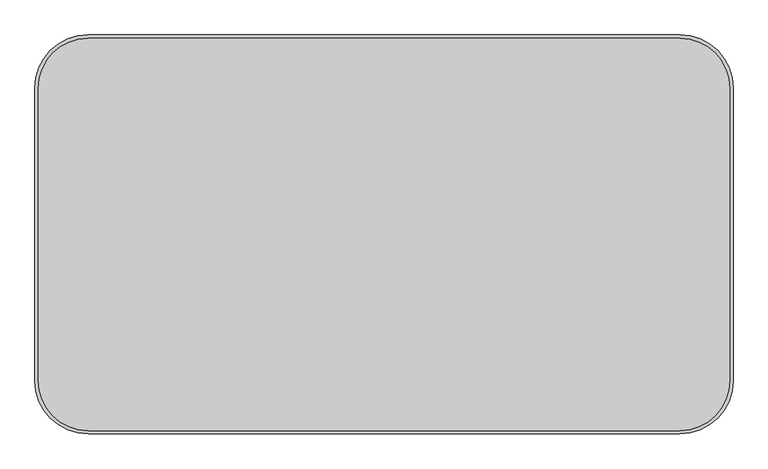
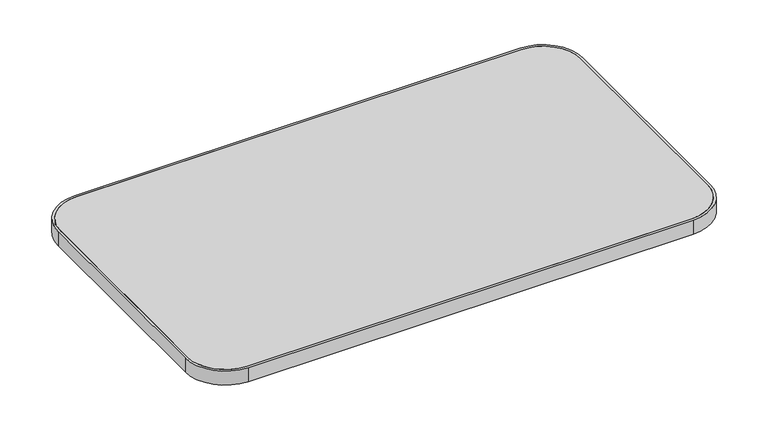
"""IFC4 building model written with IfcOpenShell, lengths in millimetres: furniture geometry, Steelcase - Answer Solution - Universal Table - Straight - 3mm Edge : 24D x 42W."""

from ifc_helpers import new_model, si_unit, point, frame, frame_2d, origin, place, context, project, spatial, polyline, circle_curve, trimmed, segment, composite_curve, outline, extrude, source, transform, mapped, element, save


def furniture_85e610aa(model_context):
    return source(origin(), model_context, "Body", "SweptSolid", [
        extrude(outline(composite_curve([segment(polyline([(5.08, -528.32), (5.08, -81.28)]), True, "CONTINUOUS"), segment(trimmed(circle_curve(frame_2d((81.28, -81.28)), 76.2), [point((5.08, -81.28))], [point((81.28, -5.08))], False, "CARTESIAN"), True, "CONTINUOUS"), segment(polyline([(81.28, -5.08), (985.52, -5.08)]), True, "CONTINUOUS"), segment(trimmed(circle_curve(frame_2d((985.52, -81.28)), 76.2), [point((985.52, -5.08))], [point((1061.72, -81.28))], False, "CARTESIAN"), True, "CONTINUOUS"), segment(polyline([(1061.72, -81.28), (1061.72, -528.32)]), True, "CONTINUOUS"), segment(trimmed(circle_curve(frame_2d((985.52, -528.32)), 76.2), [point((1061.72, -528.32))], [point((985.52, -604.52))], False, "CARTESIAN"), True, "CONTINUOUS"), segment(polyline([(985.52, -604.52), (81.28, -604.52)]), True, "CONTINUOUS"), segment(trimmed(circle_curve(frame_2d((81.28, -528.32)), 76.2), [point((81.28, -604.52))], [point((5.08, -528.32))], False, "CARTESIAN"), True, "CONTINUOUS")], self_intersect=False)), frame((0.0, 0.0, 668.274), z_axis=(0.0, 0.0, 1.0), x_axis=(1.0, 0.0, 0.0)), (0.0, 0.0, 1.0), 30.0990349),
        extrude(outline(composite_curve([segment(polyline([(81.28, 0.0), (985.52, 0.0)]), True, "CONTINUOUS"), segment(trimmed(circle_curve(frame_2d((985.52, -81.28)), 81.28), [point((985.52, 0.0))], [point((1066.8, -81.28))], False, "CARTESIAN"), True, "CONTINUOUS"), segment(polyline([(1066.8, -81.28), (1066.8, -528.32)]), True, "CONTINUOUS"), segment(trimmed(circle_curve(frame_2d((985.52, -528.32)), 81.28), [point((1066.8, -528.32))], [point((985.52, -609.6))], False, "CARTESIAN"), True, "CONTINUOUS"), segment(polyline([(985.52, -609.6), (81.28, -609.6)]), True, "CONTINUOUS"), segment(trimmed(circle_curve(frame_2d((81.28, -528.32)), 81.28), [point((81.28, -609.6))], [point((0.0, -528.32))], False, "CARTESIAN"), True, "CONTINUOUS"), segment(polyline([(0.0, -528.32), (0.0, -81.28)]), True, "CONTINUOUS"), segment(trimmed(circle_curve(frame_2d((81.28, -81.28)), 81.28), [point((0.0, -81.28))], [point((81.28, 0.0))], False, "CARTESIAN"), True, "CONTINUOUS")], self_intersect=False), holes=[composite_curve([segment(trimmed(circle_curve(frame_2d((81.28, -81.28)), 76.2), [point((81.28, -5.08))], [point((5.08, -81.28))], True, "CARTESIAN"), True, "CONTINUOUS"), segment(polyline([(5.08, -81.28), (5.08, -528.32)]), True, "CONTINUOUS"), segment(trimmed(circle_curve(frame_2d((81.28, -528.32)), 76.2), [point((5.08, -528.32))], [point((81.28, -604.52))], True, "CARTESIAN"), True, "CONTINUOUS"), segment(polyline([(81.28, -604.52), (985.52, -604.52)]), True, "CONTINUOUS"), segment(trimmed(circle_curve(frame_2d((985.52, -528.32)), 76.2), [point((985.52, -604.52))], [point((1061.72, -528.32))], True, "CARTESIAN"), True, "CONTINUOUS"), segment(polyline([(1061.72, -528.32), (1061.72, -81.28)]), True, "CONTINUOUS"), segment(trimmed(circle_curve(frame_2d((985.52, -81.28)), 76.2), [point((1061.72, -81.28))], [point((985.52, -5.08))], True, "CARTESIAN"), True, "CONTINUOUS"), segment(polyline([(985.52, -5.08), (81.28, -5.08)]), True, "CONTINUOUS")], self_intersect=False)]), frame((0.0, 0.0, 668.274), z_axis=(0.0, 0.0, 1.0), x_axis=(1.0, 0.0, 0.0)), (0.0, 0.0, 1.0), 30.0990349),
    ])


if __name__ == "__main__":
    model = new_model("IFC4")
    model_context = context("Model", 3, world=origin())
    ifc_project = project(units=[si_unit("LENGTHUNIT", "METRE", prefix="MILLI")], contexts=[model_context])
    site = spatial("IfcSite", under=ifc_project)
    building = spatial("IfcBuilding", under=site)
    placement = place(None, origin())
    furniture_shape = furniture_85e610aa(model_context)
    element("IfcFurniture", 1, ObjectType="Steelcase - Answer Solution - Universal Table - Straight - 3mm Edge : 24D x 42W", at=placement, inside=building, context=model_context, shape_type="MappedRepresentation", body=[
        mapped(furniture_shape, transform((0.0, 0.0, 0.0), x_axis=(1.0, 0.0, 0.0), y_axis=(0.0, 1.0, 0.0), z_axis=(0.0, 0.0, 1.0))),
    ])
    save(model, "model.ifc")
